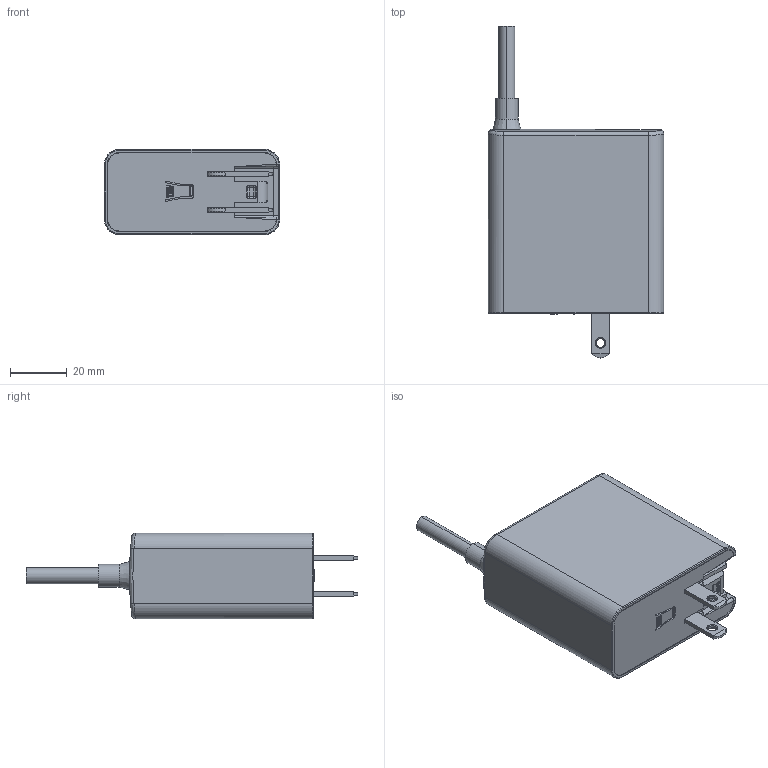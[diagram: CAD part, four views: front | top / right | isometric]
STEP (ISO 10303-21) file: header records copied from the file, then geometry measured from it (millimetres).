
FILE_DESCRIPTION(('Creo Elements/Direct Modeling STEP Export'),'2;1');
FILE_NAME('NGE30-45-65U.stp','2025-09-30T10:47:12',(''),(''),'Creo Elements/Direct Modeling STEP processor for AP214 (Solid Model)','Creo Elements/Direct Modeling 19.0G 27-Nov-2017 (C) Parametric Technology GmbH','');
FILE_SCHEMA(('AUTOMOTIVE_DESIGN { 1 0 10303 214 1 1 1 1 }'));
Length unit declared in the file: millimetre
Products named in the file (16): CASE_X2_524D84CB_X0__PRT-184350.PRT; case本體; RPA_PRT_1_1_1_PRT-13290_PRT.PRT; RPA_PRT_1_1_1_PRT_5_ASM.ASM; WS; WW_1_1_PRT-6150_PRT.PRT; WW_1_1_PRT-6480_ASM.ASM; RPA_PRT_1_1_1_PRT-13900_ASM.ASM; NGE90后盖; BOARD.PRT; RPA_PRT_1_1_1_PRT-13900_ASM.ASM.1; 装配1
Assembly tree (17 placements, depth 4):
  装配1
    RPA_PRT_1_1_1_PRT-13900_ASM.ASM.1
      WW_1_1_PRT-6480_ASM.ASM
        WW_1_1_PRT-6150_PRT.PRT
      RPA_PRT_1_1_1_PRT_5_ASM.ASM
        RPA_PRT_1_1_1_PRT-13290_PRT.PRT
      RPA_PRT_1_1_1_PRT-13290_PRT.PRT
    BOARD.PRT
    NGE90后盖
    RPA_PRT_1_1_1_PRT-13900_ASM.ASM
      WW_1_1_PRT-6480_ASM.ASM
        WW_1_1_PRT-6150_PRT.PRT
      WS
      RPA_PRT_1_1_1_PRT_5_ASM.ASM
        RPA_PRT_1_1_1_PRT-13290_PRT.PRT
      RPA_PRT_1_1_1_PRT-13290_PRT.PRT
    case本體
    CASE_X2_524D84CB_X0__PRT-184350.PRT
Bounding box: 62 x 117.3 x 30.2 mm (x, y, z)
Volume: 36069 mm3; surface area: 43783.4 mm2
Topology: 11 solids, 13 shells, 953 faces, 2494 edges, 1619 vertices
Faces by surface type: plane 565, cylinder 307, bspline 28, cone 27, torus 26
Entity records: 34673 total; most frequent: CARTESIAN_POINT 7794, ORIENTED_EDGE 4804, DIRECTION 4423, EDGE_CURVE 2402, VECTOR 1665, LINE 1665, VERTEX_POINT 1563, AXIS2_PLACEMENT_3D 1379
